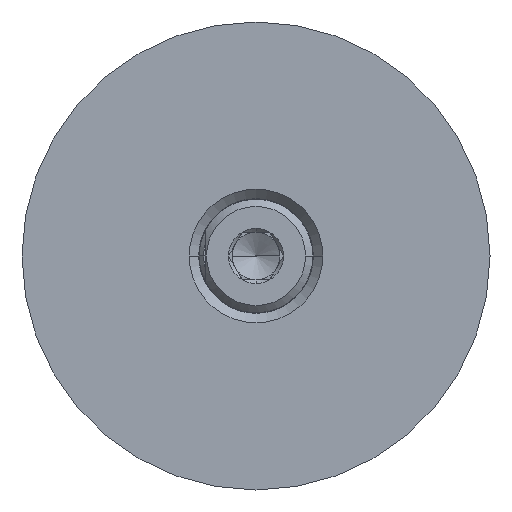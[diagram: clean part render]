
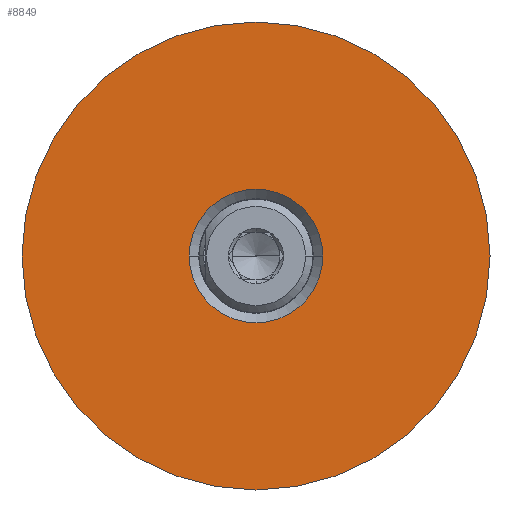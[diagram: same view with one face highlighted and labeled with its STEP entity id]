
A CAD part, left-side view. The second image highlights one B-rep face of the part: STEP entity #8849.
In plain terms, the highlighted planar face has unit normal (-1, 0, 0).
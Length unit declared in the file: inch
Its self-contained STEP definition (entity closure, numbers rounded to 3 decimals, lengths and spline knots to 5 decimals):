
#8657=CARTESIAN_POINT('',(-2.61,-0.2185,0.));
#8658=VERTEX_POINT('',#8657);
#8666=CARTESIAN_POINT('',(-2.61,0.2185,0.));
#8667=VERTEX_POINT('',#8666);
#8674=CARTESIAN_POINT('',(-2.61,0.0,0.));
#8675=DIRECTION('',(-1.0,0.0,0.0));
#8676=DIRECTION('',(0.0,-1.0,0.0));
#8677=AXIS2_PLACEMENT_3D('',#8674,#8675,#8676);
#8678=CIRCLE('',#8677,0.2185);
#8679=EDGE_CURVE('',#8667,#8658,#8678,.T.);
#8691=CARTESIAN_POINT('',(-2.61,-0.765,0.));
#8692=VERTEX_POINT('',#8691);
#8708=CARTESIAN_POINT('',(-2.61,0.765,0.));
#8709=VERTEX_POINT('',#8708);
#8716=CARTESIAN_POINT('',(-2.61,0.0,0.));
#8717=DIRECTION('',(-1.0,0.0,0.0));
#8718=DIRECTION('',(0.0,-1.0,0.0));
#8719=AXIS2_PLACEMENT_3D('',#8716,#8717,#8718);
#8720=CIRCLE('',#8719,0.765);
#8721=EDGE_CURVE('',#8692,#8709,#8720,.T.);
#8818=CARTESIAN_POINT('',(-2.61,0.0,0.));
#8819=DIRECTION('',(-1.0,0.0,0.0));
#8820=DIRECTION('',(0.0,-1.0,0.0));
#8821=AXIS2_PLACEMENT_3D('',#8818,#8819,#8820);
#8822=CIRCLE('',#8821,0.765);
#8823=EDGE_CURVE('',#8709,#8692,#8822,.T.);
#8830=CARTESIAN_POINT('',(-2.61,-0.49175,0.));
#8831=DIRECTION('',(-1.0,0.0,0.0));
#8832=DIRECTION('',(0.0,0.0,1.0));
#8833=AXIS2_PLACEMENT_3D('',#8830,#8831,#8832);
#8834=PLANE('',#8833);
#8835=ORIENTED_EDGE('',*,*,#8721,.T.);
#8836=ORIENTED_EDGE('',*,*,#8823,.T.);
#8837=EDGE_LOOP('',(#8835,#8836));
#8838=FACE_OUTER_BOUND('',#8837,.T.);
#8839=CARTESIAN_POINT('',(-2.61,0.0,0.));
#8840=DIRECTION('',(-1.0,0.0,0.0));
#8841=DIRECTION('',(0.0,-1.0,0.0));
#8842=AXIS2_PLACEMENT_3D('',#8839,#8840,#8841);
#8843=CIRCLE('',#8842,0.2185);
#8844=EDGE_CURVE('',#8658,#8667,#8843,.T.);
#8845=ORIENTED_EDGE('',*,*,#8844,.F.);
#8846=ORIENTED_EDGE('',*,*,#8679,.F.);
#8847=EDGE_LOOP('',(#8845,#8846));
#8848=FACE_BOUND('',#8847,.T.);
#8849=ADVANCED_FACE('',(#8838,#8848),#8834,.T.);
